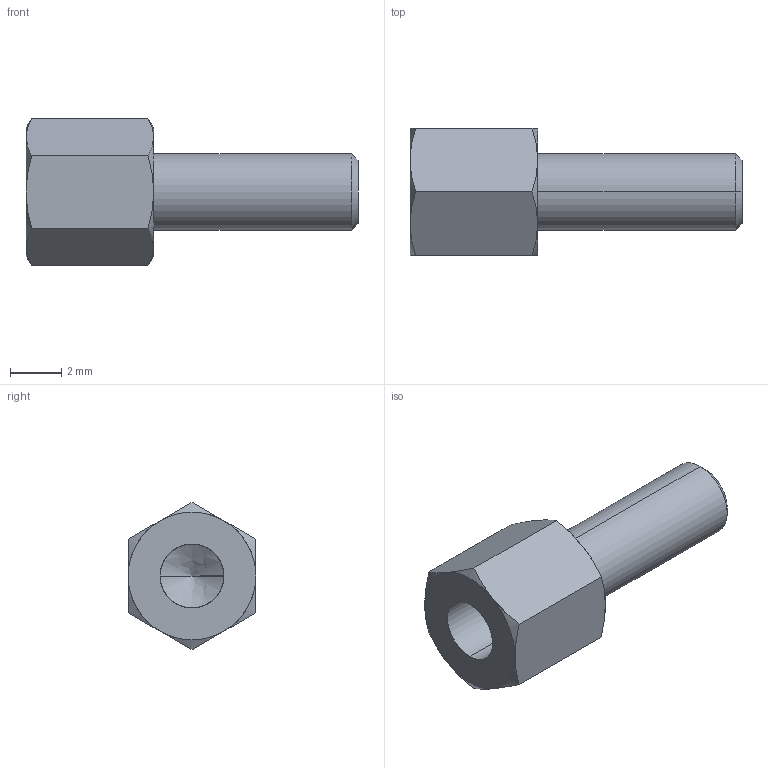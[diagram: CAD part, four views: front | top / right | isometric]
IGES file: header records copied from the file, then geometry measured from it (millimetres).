
Start section: SolidWorks IGES file using analytic representation for surfaces
Global section: file name: C:\Users\render1\Desktop\P0185_IGES\P0185.03-05.igs; native system: SolidWorks 2009; preprocessor: SolidWorks 2009; author: render1; date: 130627.111640; units: millimetre
Bounding box: 13 x 5 x 5.77 mm (x, y, z)
Surface area: 226.1 mm2 (no closed solid volume)
Topology: 0 solids, 0 shells, 29 faces, 324 edges, 322 vertices
Faces by surface type: revolution 20, bspline 9
